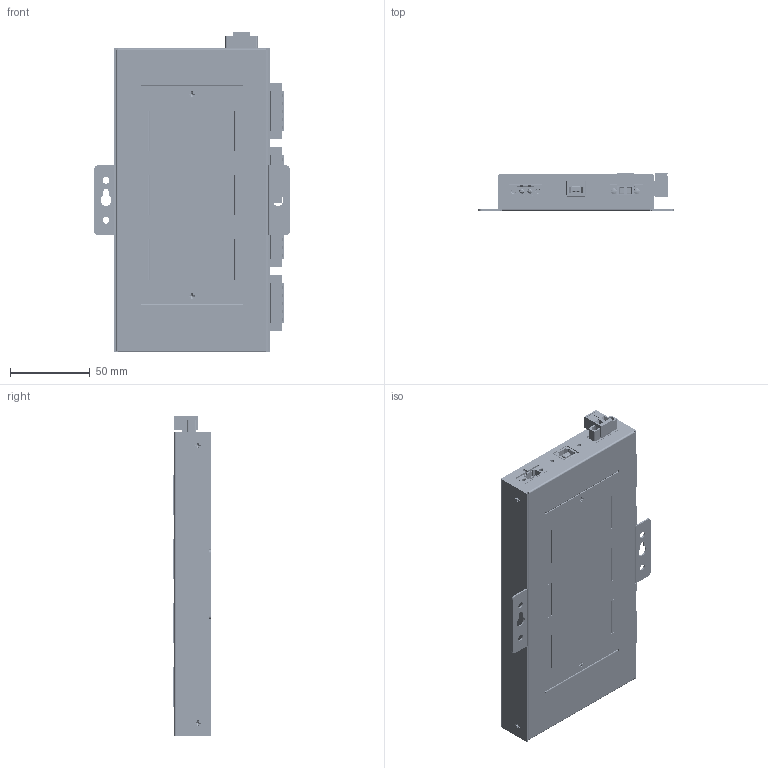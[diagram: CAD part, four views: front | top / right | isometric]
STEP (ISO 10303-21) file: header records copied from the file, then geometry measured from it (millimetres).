
FILE_DESCRIPTION(/* description */ (''),/* implementation_level */ '2;1');
FILE_NAME(/* name */ '/Users/leo/Desktop/Coolgear May/USB2-4comi-si-tb/USB2-4COMi-SI-TB Model3D LPV1.step',/* time_stamp */ '2021-08-26T14:49:25-04:00',/* author */ (''),/* organization */ (''),/* preprocessor_version */ 'ST-DEVELOPER v18.1',/* originating_system */ 'Autodesk Translation Framework v10.9.0.1377',/* authorisation */ '');
FILE_SCHEMA (('AUTOMOTIVE_DESIGN { 1 0 10303 214 3 1 1 }'));
Products named in the file (74): USB2-4COMi-SI-TB; Component1; 93090A548_Press-Fit Threaded Standoffs; Component4; connector green 5 pin female block assamble v2; connector green 5 pin female block assamble v2_1; connector green 5 pin female block assamble v2_2; connector green 5 pin female block assamble v2_3; connector geen 5 block terminal male v1; Component2; Connector green Phoenix female screw nut 5.08 v4; Component1 (1); Connector green Phoenix female screw nut 5.08 v4(Mirror); Component1 (1)(Mirror); Connector green Phoenix Screw 2pines male 5.08 v4(Mirror); 91793A067(Mirror); USB type B first Gen White v3; Housing1; pin1; shielding; pin2; shielding_2; Housing3; 3mm_LED; led_energy (1); led_energy; led_pin.1.1.1 (1); led_pin.1.1.1; led_pin.2.1 (1); led_pin.2.1; 3mm_LED (1); led_energy (1) (1); led_pin.1.1.1 (1) (1); led_pin.2.1 (1) (1); 3mm_LED (1)_1; led_energy (1) (1)_1; led_pin.1.1.1 (1) (1)_1; led_pin.2.1 (1) (1)_1; 3mm_LED (1)_2; led_energy (1) (1)_2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
Assembly tree (108 placements, depth 5):
  USB2-4COMi-SI-TB
    Component1
    93090A548_Press-Fit Threaded Standoffs  x4
    Component4
    connector green 5 pin female block assamble v2
      connector geen 5 block terminal male v1
      Component2
    connector green 5 pin female block assamble v2_1
      connector geen 5 block terminal male v1
      Component2
    connector green 5 pin female block assamble v2_2
      connector geen 5 block terminal male v1
      Component2
    connector green 5 pin female block assamble v2_3
      connector geen 5 block terminal male v1
      Component2
    Connector green Phoenix female screw nut 5.08 v4
      Component1 (1)
    Connector green Phoenix female screw nut 5.08 v4(Mirror)
      Component1 (1)(Mirror)
      Connector green Phoenix Screw 2pines male 5.08 v4(Mirror)
        91793A067(Mirror)  x2
    USB type B first Gen White v3
      Housing1
      pin1  x2
      shielding
      pin2  x2
      shielding_2
      Housing3
    3mm_LED
      led_energy (1)
        led_energy
      led_pin.1.1.1 (1)
        led_pin.1.1.1
      led_pin.2.1 (1)
        led_pin.2.1
    3mm_LED (1)
      led_energy (1) (1)
        led_energy (2)
      led_pin.1.1.1 (1) (1)
        led_pin.1.1.1 (2)
      led_pin.2.1 (1) (1)
        led_pin.2.1 (2)
    3mm_LED (1)_1
      led_energy (1) (1)_1
        led_energy (2)
      led_pin.1.1.1 (1) (1)_1
        led_pin.1.1.1 (2)
      led_pin.2.1 (1) (1)_1
        led_pin.2.1 (2)
    3mm_LED (1)_2
      led_energy (1) (1)_2
        led_energy (2)
      led_pin.1.1.1 (1) (1)_2
        led_pin.1.1.1 (2)
      led_pin.2.1 (1) (1)_2
        led_pin.2.1 (2)
    3mm_LED (1)_3
      led_energy (1) (1)_3
        led_energy (2)
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Bounding box: 122 x 23.83 x 200.45 mm (x, y, z)
Volume: 109124.7 mm3; surface area: 168629 mm2
Topology: 4 solids, 9 shells, 6157 faces, 17179 edges, 11115 vertices
Faces by surface type: plane 4808, cylinder 964, cone 176, bspline 96, torus 96, sphere 17
Full cylindrical faces by diameter (mm): 1.399 x44, 1.6 x10, 1.7 x8, 1.8 x8, 1.854 x42, 2 x2, 2.323 x14, 2.35 x24, 2.5 x8, 2.529 x2, 2.6 x8, 2.7 x4, 2.8 x20, 2.9 x9, 2.998 x9, 3 x60, 3.3 x20, 3.5 x4, 3.643 x9, 3.7 x8, 3.8 x16, 3.86 x2, 4 x42, 4.17 x4, 5.4 x4
Entity records: 218783 total; most frequent: CARTESIAN_POINT 61307, ORIENTED_EDGE 33996, DIRECTION 30506, EDGE_CURVE 16998, LINE 13224, VECTOR 13224, VERTEX_POINT 11007, AXIS2_PLACEMENT_3D 8641
